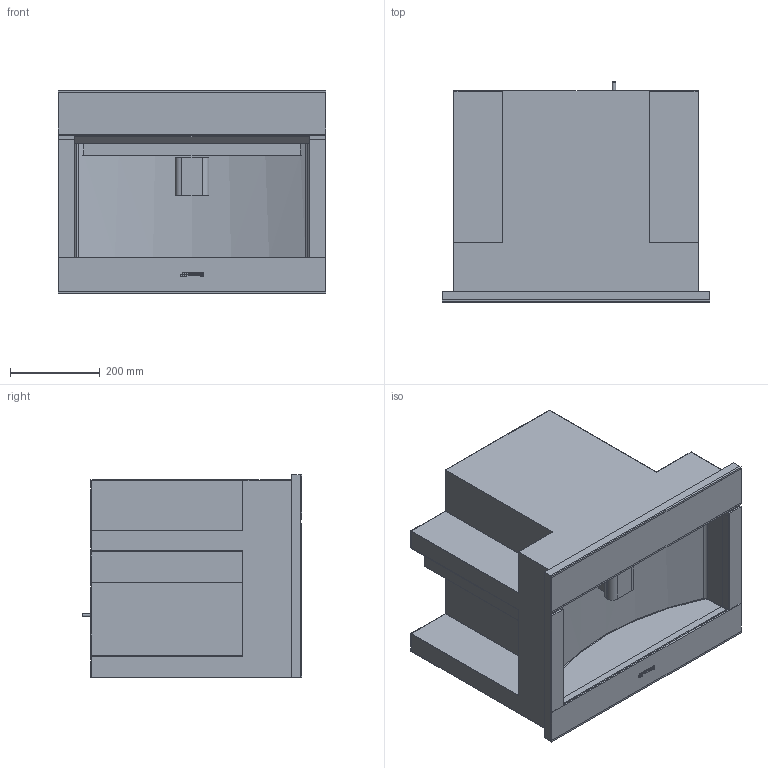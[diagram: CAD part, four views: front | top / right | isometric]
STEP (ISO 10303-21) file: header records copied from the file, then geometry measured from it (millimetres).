
FILE_DESCRIPTION(/* description */ (''),/* implementation_level */ '2;1');
FILE_NAME(/* name */ 'macchina caffe cms4604.stp',/* time_stamp */ '2019-11-19T18:02:01+01:00',/* author */ (''),/* organization */ (''),/* preprocessor_version */ 'ST-DEVELOPER v16',/* originating_system */ 'SIEMENS PLM Software NX 11.0',/* authorisation */ '');
FILE_SCHEMA (('AUTOMOTIVE_DESIGN { 1 0 10303 214 3 1 1 1 }'));
Length unit declared in the file: millimetre
Products named in the file (1): Mart1DDC394C7hjk
Bounding box: 597 x 490.1 x 452 mm (x, y, z)
Volume: 9063752 mm3; surface area: 3943185.8 mm2
Topology: 22 solids, 22 shells, 236 faces, 557 edges, 368 vertices
Faces by surface type: plane 190, cylinder 35, extrusion 11
Full cylindrical faces by diameter (mm): 4.608 x6, 7 x1, 8 x1
Entity records: 7063 total; most frequent: CARTESIAN_POINT 1456, ORIENTED_EDGE 1096, DIRECTION 1063, EDGE_CURVE 548, VECTOR 461, LINE 450, VERTEX_POINT 368, AXIS2_PLACEMENT_3D 301
